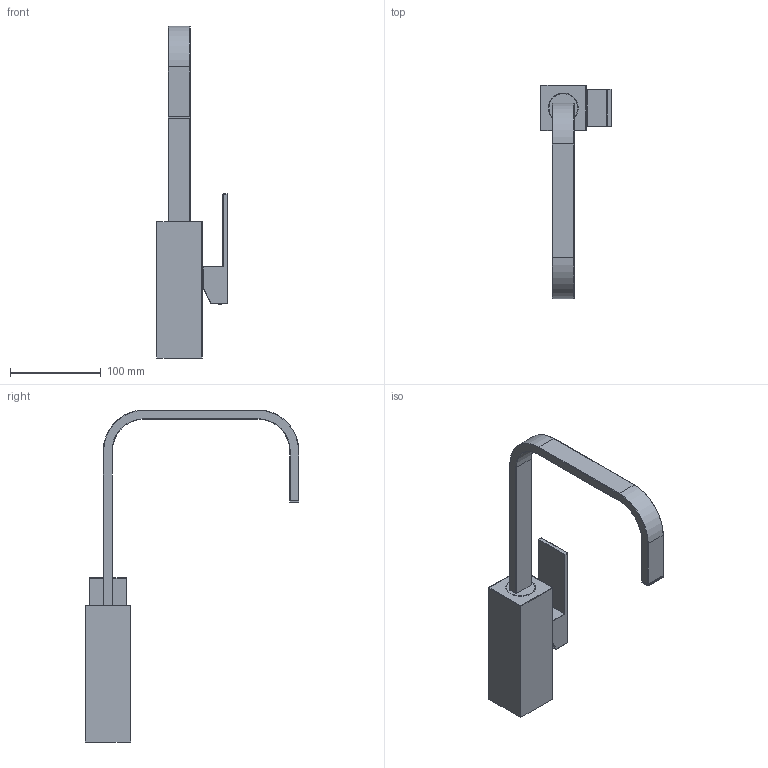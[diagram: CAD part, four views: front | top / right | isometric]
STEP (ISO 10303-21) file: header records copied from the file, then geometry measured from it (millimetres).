
FILE_DESCRIPTION(('STEP AP242'), '1');
FILE_NAME('84CR254R', '', ('UNSPECIFIED'), ('UNSPECIFIED'), 'ASCON STEP Converter 1.6', 'ASCON Math Kernel', '');
FILE_SCHEMA(('AP242_MANAGED_MODEL_BASED_3D_ENGINEERING_MIM_LF { 1 0 10303 442 1 1 4 }'));
Length unit declared in the file: millimetre
Assembly tree (2 placements, depth 2):
  (unnamed)
    (unnamed)
    (unnamed)
Bounding box: 78.01 x 235 x 365 mm (x, y, z)
Volume: 530917.4 mm3; surface area: 87210.7 mm2
Topology: 3 solids, 3 shells, 140 faces, 317 edges, 165 vertices
Faces by surface type: cylinder 60, plane 46, sphere 18, torus 10, bspline 4, cone 2
Full cylindrical faces by diameter (mm): 32 x1
Entity records: 5376 total; most frequent: CARTESIAN_POINT 1158, DIRECTION 649, ORIENTED_EDGE 578, EDGE_CURVE 289, AXIS2_PLACEMENT_3D 243, VERTEX_POINT 164, LINE 163, VECTOR 163
